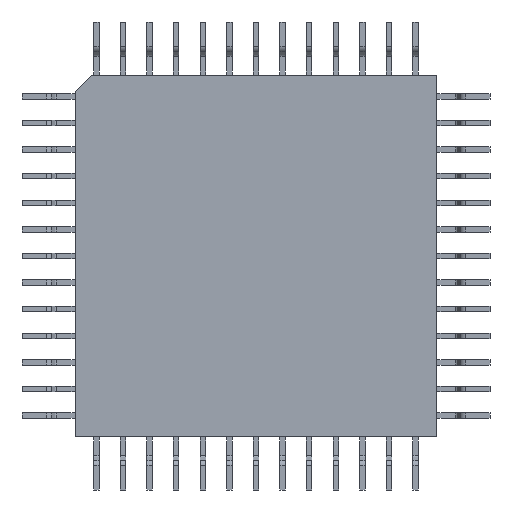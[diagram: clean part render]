
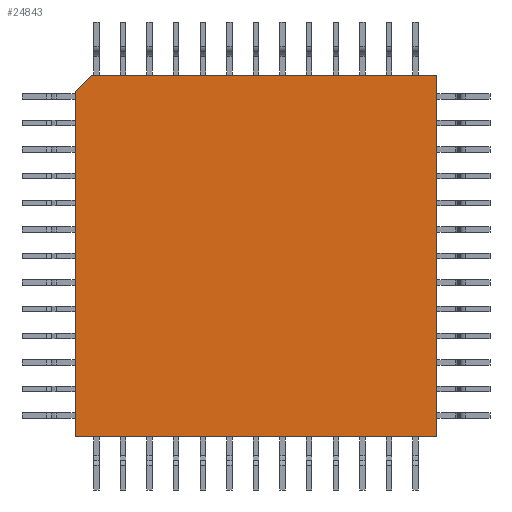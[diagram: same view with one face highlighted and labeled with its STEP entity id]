
A CAD part, front view. The second image highlights one B-rep face of the part: STEP entity #24843.
In plain terms, the highlighted planar face has unit normal (0, -1, 0).
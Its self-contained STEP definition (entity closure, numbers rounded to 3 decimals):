
#24675 = CARTESIAN_POINT ( 'NONE',  ( -8.64, 0.51, -8.64 ) ) ;
#24676 = VERTEX_POINT ( 'NONE', #24675 ) ;
#24677 = CARTESIAN_POINT ( 'NONE',  ( -8.64, 0.51, 7.84 ) ) ;
#24678 = VERTEX_POINT ( 'NONE', #24677 ) ;
#24679 = CARTESIAN_POINT ( 'NONE',  ( -8.64, 0.51, 8.64 ) ) ;
#24680 = DIRECTION ( 'NONE',  ( 0., 0., 1. ) ) ;
#24681 = VECTOR ( 'NONE', #24680, 1000. ) ;
#24682 = LINE ( 'NONE', #24679, #24681 ) ;
#24683 = EDGE_CURVE ( 'NONE', #24676, #24678, #24682, .T. ) ;
#24725 = CARTESIAN_POINT ( 'NONE',  ( -7.84, 0.51, 8.64 ) ) ;
#24726 = VERTEX_POINT ( 'NONE', #24725 ) ;
#24733 = CARTESIAN_POINT ( 'NONE',  ( 8.64, 0.51, 8.64 ) ) ;
#24734 = VERTEX_POINT ( 'NONE', #24733 ) ;
#24735 = CARTESIAN_POINT ( 'NONE',  ( 8.64, 0.51, 8.64 ) ) ;
#24736 = DIRECTION ( 'NONE',  ( 1., 0., 0. ) ) ;
#24737 = VECTOR ( 'NONE', #24736, 1000. ) ;
#24738 = LINE ( 'NONE', #24735, #24737 ) ;
#24739 = EDGE_CURVE ( 'NONE', #24726, #24734, #24738, .T. ) ;
#24755 = CARTESIAN_POINT ( 'NONE',  ( 8.64, 0.51, -8.64 ) ) ;
#24756 = VERTEX_POINT ( 'NONE', #24755 ) ;
#24757 = CARTESIAN_POINT ( 'NONE',  ( 8.64, 0.51, 8.64 ) ) ;
#24758 = DIRECTION ( 'NONE',  ( 0., 0., -1. ) ) ;
#24759 = VECTOR ( 'NONE', #24758, 1000. ) ;
#24760 = LINE ( 'NONE', #24757, #24759 ) ;
#24761 = EDGE_CURVE ( 'NONE', #24734, #24756, #24760, .T. ) ;
#24786 = CARTESIAN_POINT ( 'NONE',  ( 8.64, 0.51, -8.64 ) ) ;
#24787 = DIRECTION ( 'NONE',  ( -1., 0., 0. ) ) ;
#24788 = VECTOR ( 'NONE', #24787, 1000. ) ;
#24789 = LINE ( 'NONE', #24786, #24788 ) ;
#24790 = EDGE_CURVE ( 'NONE', #24756, #24676, #24789, .T. ) ;
#24826 = ORIENTED_EDGE ( 'NONE', *, *, #24739, .F. ) ;
#24827 = CARTESIAN_POINT ( 'NONE',  ( -7.84, 0.51, 8.64 ) ) ;
#24828 = DIRECTION ( 'NONE',  ( -0.707, 0., -0.707 ) ) ;
#24829 = VECTOR ( 'NONE', #24828, 1000. ) ;
#24830 = LINE ( 'NONE', #24827, #24829 ) ;
#24831 = EDGE_CURVE ( 'NONE', #24726, #24678, #24830, .T. ) ;
#24832 = ORIENTED_EDGE ( 'NONE', *, *, #24831, .T. ) ;
#24833 = ORIENTED_EDGE ( 'NONE', *, *, #24683, .F. ) ;
#24834 = ORIENTED_EDGE ( 'NONE', *, *, #24790, .F. ) ;
#24835 = ORIENTED_EDGE ( 'NONE', *, *, #24761, .F. ) ;
#24836 = EDGE_LOOP ( 'NONE', ( #24826, #24832, #24833, #24834, #24835 ) ) ;
#24837 = FACE_OUTER_BOUND ( 'NONE', #24836, .T. ) ;
#24838 = CARTESIAN_POINT ( 'NONE',  ( 0., 0.51, 0. ) ) ;
#24839 = DIRECTION ( 'NONE',  ( 0., 1., 0. ) ) ;
#24840 = DIRECTION ( 'NONE',  ( 0., 0., 1. ) ) ;
#24841 = AXIS2_PLACEMENT_3D ( 'NONE', #24838, #24839, #24840 ) ;
#24842 = PLANE ( 'NONE', #24841 ) ;
#24843 = ADVANCED_FACE ( 'NONE', ( #24837 ), #24842, .F. ) ;
